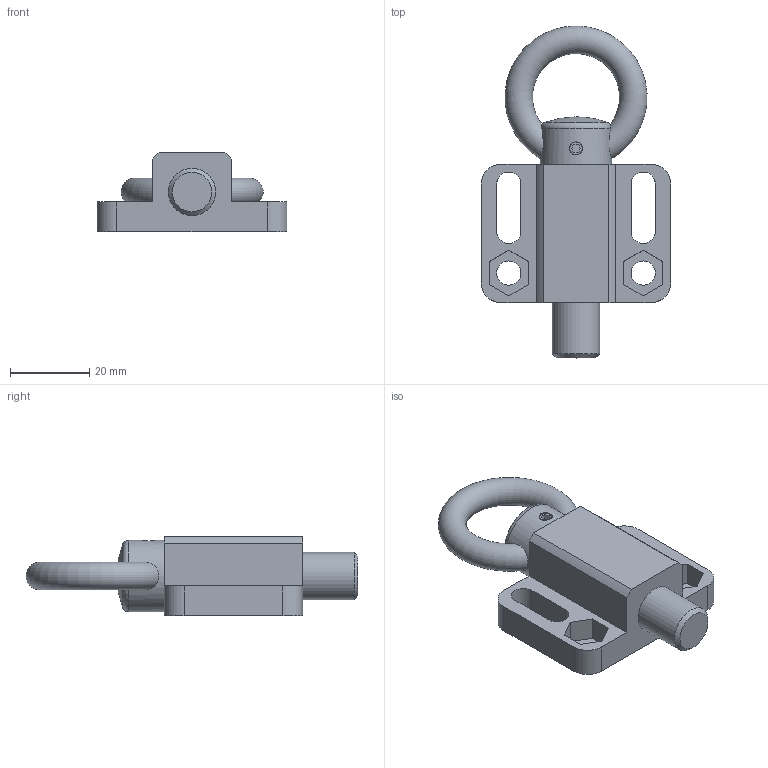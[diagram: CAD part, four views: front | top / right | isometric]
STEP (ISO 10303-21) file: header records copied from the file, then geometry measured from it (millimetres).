
FILE_DESCRIPTION(/* description */ ('STEP AP214'),/* implementation_level */ '2;1');
FILE_NAME(/* name */ 'Indexing plunger GN 722.6-12-20-A-SW (deactivated)',/* time_stamp */ '2023-02-28T07:38:20+01:00',/* author */ ('License CC BY-ND 4.0'),/* organization */ ('CADENAS'),/* preprocessor_version */ 'ST-DEVELOPER v18.102',/* originating_system */ 'PARTsolutions',/* authorisation */ ' ');
FILE_SCHEMA (('AUTOMOTIVE_DESIGN {1 0 10303 214 3 1 1}'));
Length unit declared in the file: millimetre
Products named in the file (3): Indexing plunger GN 722.6-12-20-A-SW (deactivated); Indexing plunger GN 722.6-12-20-A-SW (deactivated)-2; Indexing plunger GN 722.6-12-20-A-SW (deactivated)-1
Assembly tree (2 placements, depth 2):
  Indexing plunger GN 722.6-12-20-A-SW (deactivated)
    Indexing plunger GN 722.6-12-20-A-SW (deactivated)-2
    Indexing plunger GN 722.6-12-20-A-SW (deactivated)-1
Bounding box: 48 x 83.99 x 20 mm (x, y, z)
Volume: 25003.4 mm3; surface area: 12161 mm2
Topology: 2 solids, 2 shells, 67 faces, 166 edges, 109 vertices
Faces by surface type: plane 42, cylinder 20, torus 2, cone 2, sphere 1
Full cylindrical faces by diameter (mm): 3.3 x1, 6.1 x2, 12 x4, 14 x2, 18 x1
Entity records: 2017 total; most frequent: CARTESIAN_POINT 370, DIRECTION 326, ORIENTED_EDGE 296, EDGE_CURVE 148, AXIS2_PLACEMENT_3D 113, VERTEX_POINT 106, LINE 100, VECTOR 100
